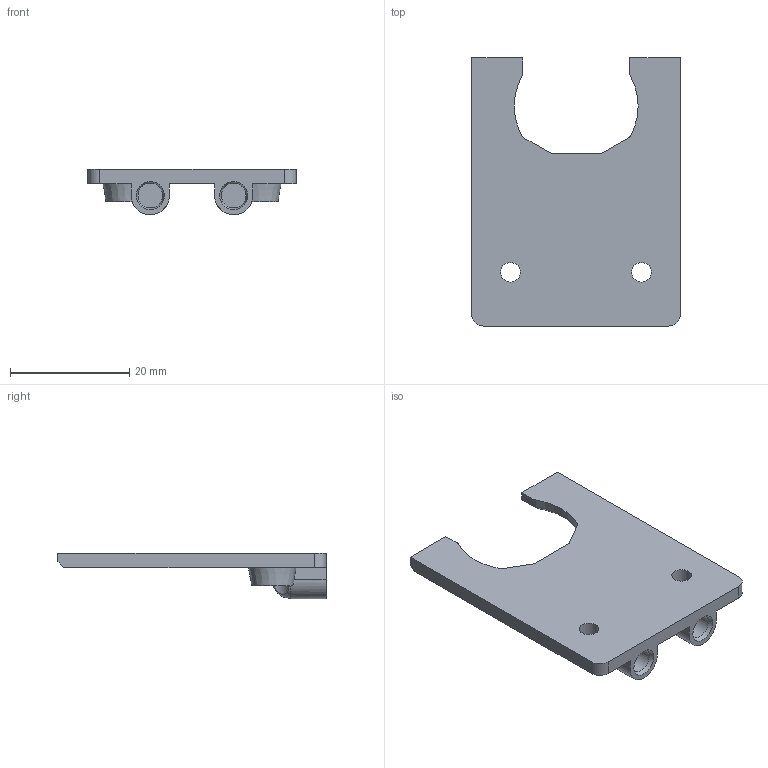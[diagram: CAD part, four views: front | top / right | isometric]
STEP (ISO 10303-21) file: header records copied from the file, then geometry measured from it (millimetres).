
FILE_DESCRIPTION(/* description */ (''),/* implementation_level */ '2;1');
FILE_NAME(/* name */ 'HMG7-E3D-Revo-Voron-Skirt.step',/* time_stamp */ '2022-11-01T21:37:31-07:00',/* author */ (''),/* organization */ (''),/* preprocessor_version */ 'ST-DEVELOPER v19.2',/* originating_system */ 'Autodesk Translation Framework v11.17.0.187',/* authorisation */ '');
FILE_SCHEMA (('AUTOMOTIVE_DESIGN { 1 0 10303 214 3 1 1 }'));
Length unit declared in the file: millimetre
Products named in the file (4): GEN_7_1.5; Revo_Voron; Revo_Voron_Mount; Revo_Voron_Skirt
Assembly tree (3 placements, depth 3):
  GEN_7_1.5
    Revo_Voron
      Revo_Voron_Mount
      Revo_Voron_Skirt
Bounding box: 35 x 45.03 x 7.6 mm (x, y, z)
Volume: 3398 mm3; surface area: 3517.4 mm2
Topology: 1 solids, 1 shells, 67 faces, 171 edges, 106 vertices
Faces by surface type: plane 31, cylinder 22, cone 12, bspline 2
Full cylindrical faces by diameter (mm): 3.3 x2, 4.15 x2, 6 x2
Entity records: 2197 total; most frequent: CARTESIAN_POINT 461, DIRECTION 357, ORIENTED_EDGE 338, EDGE_CURVE 169, AXIS2_PLACEMENT_3D 130, VERTEX_POINT 106, LINE 97, VECTOR 97
